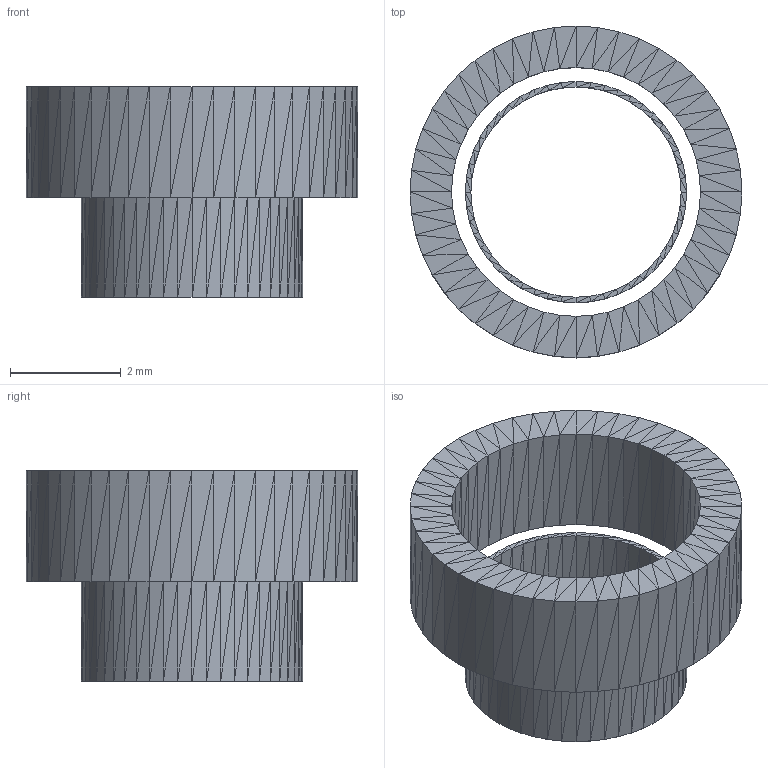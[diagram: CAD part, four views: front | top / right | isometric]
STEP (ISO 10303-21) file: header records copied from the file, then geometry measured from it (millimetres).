
FILE_DESCRIPTION((''),'2;1');
FILE_NAME('sloupekM3h2 (2)', '2025-12-28T16:24:39', (''), (''), 'ImageToStl.com STEP Converter','', '');
FILE_SCHEMA(('AUTOMOTIVE_DESIGN_CC2'));
Length unit declared in the file: metre
Products named in the file (1): product0
Bounding box: 6 x 6 x 3.8 mm (x, y, z)
Surface area: 137.1 mm2 (no closed solid volume)
Topology: 0 solids, 960 shells, 960 faces, 2688 edges, 384 vertices
Faces by surface type: plane 960
Entity records: 21916 total; most frequent: DIRECTION 4802, ORIENTED_EDGE 2880, EDGE_CURVE 2880, LINE 2880, VECTOR 2880, AXIS2_PLACEMENT_3D 961, FACE_SURFACE 960, PLANE 960
